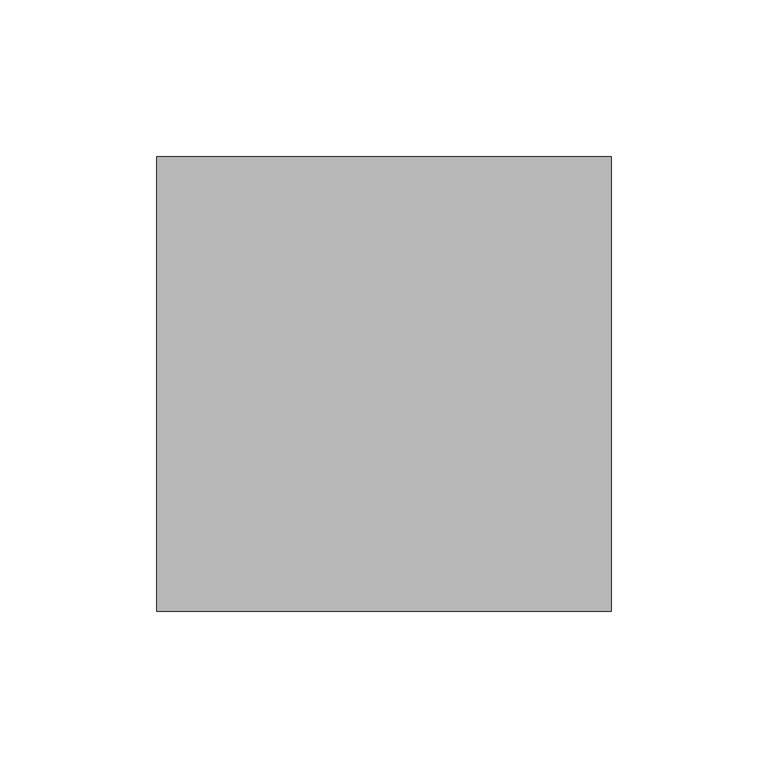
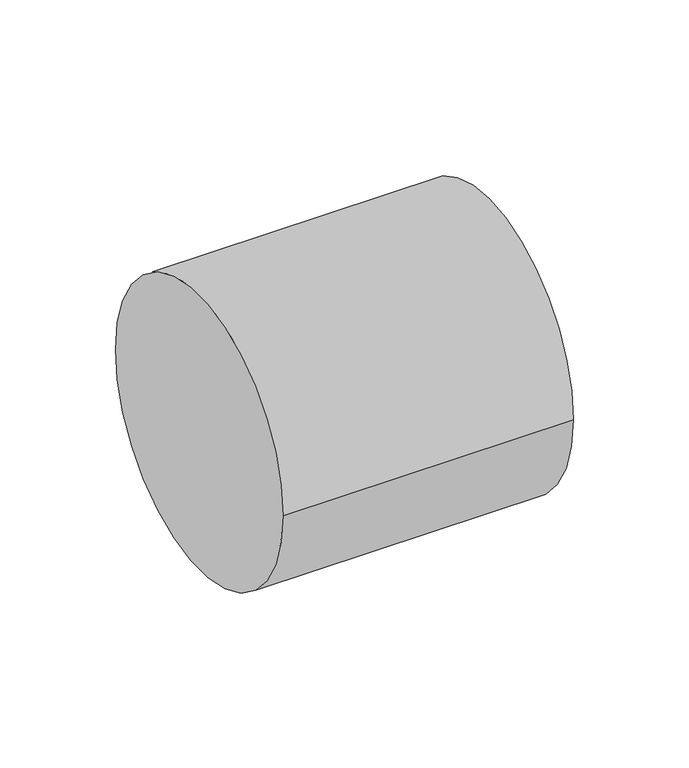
"""IFC4 building model written with IfcOpenShell, lengths in millimetres: pipe fitting geometry, 01051005 : Manguitos union."""

from ifc_helpers import new_model, si_unit, point, frame, origin, origin_2d, place, context, project, spatial, circle_curve, trimmed, segment, composite_curve, outline, extrude, source, transform, mapped, element, save


def pipe_fitting_e09bba8a(model_context):
    return source(origin(), model_context, "Body", "SweptSolid", [
        extrude(outline(composite_curve([segment(trimmed(circle_curve(origin_2d(), 72.5), [point((-72.5, 0.0))], [point((72.5, 0.0))], False, "CARTESIAN"), True, "CONTINUOUS"), segment(trimmed(circle_curve(origin_2d(), 72.5), [point((72.5, 0.0))], [point((-72.5, 0.0))], False, "CARTESIAN"), True, "CONTINUOUS")], self_intersect=False)), frame((-72.5, 0.0, 0.0), z_axis=(1.0, 0.0, 0.0), x_axis=(0.0, 1.0, 0.0)), (0.0, 0.0, 1.0), 145.0),
    ])


if __name__ == "__main__":
    model = new_model("IFC4")
    model_context = context("Model", 3, world=origin())
    ifc_project = project(units=[si_unit("LENGTHUNIT", "METRE", prefix="MILLI")], contexts=[model_context])
    site = spatial("IfcSite", under=ifc_project)
    building = spatial("IfcBuilding", under=site)
    placement = place(None, origin())
    pipe_fitting_shape = pipe_fitting_e09bba8a(model_context)
    element("IfcPipeFitting", 1, ObjectType="01051005 : Manguitos union", at=placement, inside=building, context=model_context, shape_type="MappedRepresentation", body=[
        mapped(pipe_fitting_shape, transform((0.0, 0.0, 0.0), x_axis=(1.0, 0.0, 0.0), y_axis=(0.0, 1.0, 0.0), z_axis=(0.0, 0.0, 1.0))),
    ])
    save(model, "model.ifc")
